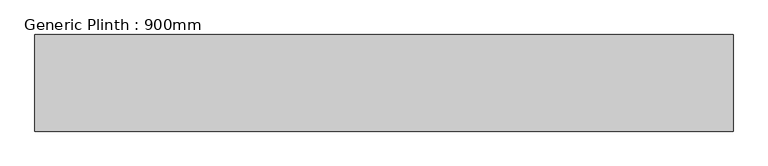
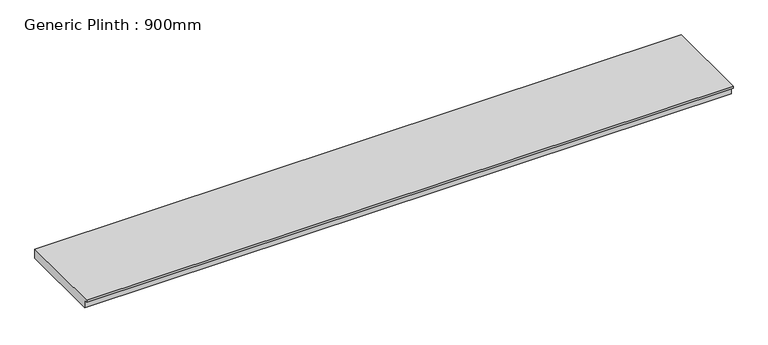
"""IFC4 building model written with IfcOpenShell, lengths in millimetres: furniture geometry, Generic Plinth : 900mm."""

import ifcopenshell
import ifcopenshell.guid

model = None  # the IFC model being written
_history = None  # IfcOwnerHistory: only IFC2X3 demands one
_inside = {}  # id of a spatial element -> (the spatial element, [elements in it])
_under = {}  # id of a project, library or spatial element -> (it, [spatial elements below it])
_declared = {}  # id of a project -> (the project, [libraries it declares])
_typed = {}  # id of a type object -> (the type object, [elements of that type])
_made_of = {}  # id of a material, layer set ... -> (it, [elements and type objects made of it])


def new_model(schema):
    """Start an empty IFC model of exactly this schema.

    Asked for "IFC4X3", IfcOpenShell would pick the latest addendum, in which some entities
    have other attributes; the version numbers below select the first issue.
    IFC2X3 requires an IfcOwnerHistory on every rooted entity: one is made here for all.
    """
    global model, _history
    if schema == "IFC4X3":
        model = ifcopenshell.file(schema_version=(4, 3, 0, 0))
    else:
        model = ifcopenshell.file(schema=schema)
    _inside.clear()
    _under.clear()
    _declared.clear()
    _typed.clear()
    _made_of.clear()
    _history = None
    if model.schema == "IFC2X3":
        org = make("IfcOrganization", Name="unknown")
        user = make(
            "IfcPersonAndOrganization",
            ThePerson=make("IfcPerson", FamilyName="unknown"),
            TheOrganization=org,
        )
        app = make(
            "IfcApplication",
            ApplicationDeveloper=org,
            Version="unknown",
            ApplicationFullName="unknown",
            ApplicationIdentifier="unknown",
        )
        _history = make(
            "IfcOwnerHistory",
            OwningUser=user,
            OwningApplication=app,
            ChangeAction="ADDED",
            CreationDate=0,
        )
    return model


def make(cls, **values):
    """One entity of the class cls with the attributes given. An attribute that is None is left unset."""
    return model.create_entity(
        cls, **{name: value for name, value in values.items() if value is not None}
    )


def rooted(cls, **values):
    """An entity with a GlobalId (a new one), such as an element, a storey or a relation."""
    return make(cls, GlobalId=ifcopenshell.guid.new(), OwnerHistory=_history, **values)


def si_unit(unit_type, name, prefix=None):
    """IfcSIUnit, for example si_unit("LENGTHUNIT", "METRE", prefix="MILLI")."""
    return make("IfcSIUnit", UnitType=unit_type, Prefix=prefix, Name=name)


def assignment(units):
    """IfcUnitAssignment: the units of a project."""
    return None if units is None else make("IfcUnitAssignment", Units=units)


def point(xyz):
    """IfcCartesianPoint."""
    return None if xyz is None else make("IfcCartesianPoint", Coordinates=xyz)


def direction(xyz):
    """IfcDirection."""
    return None if xyz is None else make("IfcDirection", DirectionRatios=xyz)


def frame(location, z_axis=None, x_axis=None):
    """IfcAxis2Placement3D, a coordinate frame: its origin and axes. An axis left out is left unset."""
    return make(
        "IfcAxis2Placement3D",
        Location=point(location),
        Axis=direction(z_axis),
        RefDirection=direction(x_axis),
    )


def origin():
    """The frame at (0, 0, 0) with its axes left unset."""
    return frame((0.0, 0.0, 0.0))


def place(relative_to, where):
    """IfcLocalPlacement: puts the frame where relative to a parent placement (None: the world)."""
    return make(
        "IfcLocalPlacement", PlacementRelTo=relative_to, RelativePlacement=where
    )


def context(
    kind, dimensions, precision=None, world=None, true_north=None, identifier=None
):
    """IfcGeometricRepresentationContext, for example the 3D "Model" context."""
    return make(
        "IfcGeometricRepresentationContext",
        ContextIdentifier=identifier,
        ContextType=kind,
        CoordinateSpaceDimension=dimensions,
        Precision=precision,
        WorldCoordinateSystem=world,
        TrueNorth=true_north,
    )


def project(units=None, contexts=None):
    """IfcProject with its units and contexts."""
    return rooted(
        "IfcProject",
        Name="project",
        RepresentationContexts=contexts,
        UnitsInContext=assignment(units),
    )


def spatial(cls, under=None, at=None, **own):
    """A site, building, storey or space (cls), placed at a placement, below another one or the project."""
    s = rooted(cls, ObjectPlacement=at, **own)
    if under is not None:
        _under.setdefault(under.id(), (under, []))[1].append(s)
    return s


def polyline(points):
    """IfcPolyline through the points."""
    return make("IfcPolyline", Points=[point(p) for p in points])


def outline(outer, holes=None, kind="AREA"):
    """IfcArbitraryClosedProfileDef: a profile drawn as a closed curve; with holes, ...WithVoids."""
    if holes is None:
        return make("IfcArbitraryClosedProfileDef", ProfileType=kind, OuterCurve=outer)
    return make(
        "IfcArbitraryProfileDefWithVoids",
        ProfileType=kind,
        OuterCurve=outer,
        InnerCurves=holes,
    )


def extrude(swept, where, along, depth):
    """IfcExtrudedAreaSolid: the profile swept, set in the frame where, extruded along a direction by depth."""
    return make(
        "IfcExtrudedAreaSolid",
        SweptArea=swept,
        Position=where,
        ExtrudedDirection=direction(along),
        Depth=depth,
    )


def shape(context_of_items, identifier, shape_type, items):
    """IfcShapeRepresentation: the items that make up one representation, for example the "Body"."""
    return make(
        "IfcShapeRepresentation",
        ContextOfItems=context_of_items,
        RepresentationIdentifier=identifier,
        RepresentationType=shape_type,
        Items=items,
    )


def source(mapping_origin, context_of_items, identifier, shape_type, items):
    """IfcRepresentationMap: a shape defined once, which mapped items show again and again."""
    return make(
        "IfcRepresentationMap",
        MappingOrigin=mapping_origin,
        MappedRepresentation=shape(context_of_items, identifier, shape_type, items),
    )


def transform(
    local_origin,
    x_axis=None,
    y_axis=None,
    z_axis=None,
    scale=None,
    scale2=None,
    scale3=None,
    uniform=True,
):
    """IfcCartesianTransformationOperator3D, or its non-uniform kind. x_axis, y_axis, z_axis: its Axis1, 2, 3."""
    if uniform:
        return make(
            "IfcCartesianTransformationOperator3D",
            Axis1=direction(x_axis),
            Axis2=direction(y_axis),
            LocalOrigin=point(local_origin),
            Scale=scale,
            Axis3=direction(z_axis),
        )
    return make(
        "IfcCartesianTransformationOperator3DnonUniform",
        Axis1=direction(x_axis),
        Axis2=direction(y_axis),
        LocalOrigin=point(local_origin),
        Scale=scale,
        Axis3=direction(z_axis),
        Scale2=scale2,
        Scale3=scale3,
    )


def mapped(mapping_source, mapping_target):
    """IfcMappedItem: shows the shape of a source again, moved by a transform."""
    return make(
        "IfcMappedItem", MappingSource=mapping_source, MappingTarget=mapping_target
    )


def made_of(thing, what):
    """Note that an element or type object is made of a material, layer set ...; save() writes the relation."""
    if what is not None:
        _made_of.setdefault(what.id(), (what, []))[1].append(thing)
    return thing


def element(
    cls,
    number,
    at=None,
    inside=None,
    cuts=None,
    type_object=None,
    material=None,
    context=None,
    identifier="Body",
    shape_type=None,
    held_by="IfcProductDefinitionShape",
    body=None,
    shapes=None,
    **own,
):
    """One element of the class cls, such as IfcWall. Its Tag is "e" and its number.

    at: its placement. inside: the storey or other place that contains it. cuts: it is an
    opening in that element (IfcRelVoidsElement). A single representation is given by context,
    identifier, shape_type and body (its items); several are given by shapes. held_by: the class
    of the entity that holds the representations. save() writes the other relations.
    """
    e = rooted(cls, Tag="e%d" % number, ObjectPlacement=at, **own)
    if body is not None:
        shapes = [shape(context, identifier, shape_type, body)]
    if shapes is not None:
        e.Representation = make(held_by, Representations=shapes)
    if inside is not None:
        _inside.setdefault(inside.id(), (inside, []))[1].append(e)
    if cuts is not None:
        rooted(
            "IfcRelVoidsElement", RelatingBuildingElement=cuts, RelatedOpeningElement=e
        )
    if type_object is not None:
        _typed.setdefault(type_object.id(), (type_object, []))[1].append(e)
    return made_of(e, material)


def aggregate(whole, parts):
    """IfcRelAggregates: a whole, such as a stair, and the parts it consists of."""
    return rooted("IfcRelAggregates", RelatingObject=whole, RelatedObjects=parts)


def save(model, path):
    """Write the relations noted so far, then the file.

    IfcRelAggregates (storeys below a building ...), IfcRelContainedInSpatialStructure (elements
    in a storey), IfcRelDefinesByType, IfcRelAssociatesMaterial and IfcRelDeclares: one each for
    every whole, place, type object, material and project.
    """
    for whole, parts in _under.values():
        aggregate(whole, parts)
    for where, things in _inside.values():
        rooted(
            "IfcRelContainedInSpatialStructure",
            RelatedElements=things,
            RelatingStructure=where,
        )
    for kind, things in _typed.values():
        rooted("IfcRelDefinesByType", RelatedObjects=things, RelatingType=kind)
    for what, things in _made_of.values():
        rooted("IfcRelAssociatesMaterial", RelatedObjects=things, RelatingMaterial=what)
    for by, libraries in _declared.values():
        rooted("IfcRelDeclares", RelatingContext=by, RelatedDefinitions=libraries)
    model.write(path)


def generic_plinth_900mm_e3c7578c(model_context):
    return source(origin(), model_context, "Body", "SweptSolid", [
        extrude(outline(polyline([(-900.0, 81.0), (-900.0, 100.0), (0.0, 100.0), (0.0, 0.0), (-865.0, 0.0), (-865.0, 81.0), (-900.0, 81.0)])), frame((-3231.2622951, 0.0, 0.0), z_axis=(1.0, 0.0, 0.0), x_axis=(0.0, 1.0, 0.0)), (0.0, 0.0, 1.0), 6500.0),
    ])


if __name__ == "__main__":
    model = new_model("IFC4")
    model_context = context("Model", 3, world=origin())
    ifc_project = project(units=[si_unit("LENGTHUNIT", "METRE", prefix="MILLI")], contexts=[model_context])
    site = spatial("IfcSite", under=ifc_project)
    building = spatial("IfcBuilding", under=site)
    placement = place(None, origin())
    generic_plinth_900mm_shape = generic_plinth_900mm_e3c7578c(model_context)
    element("IfcFurniture", 1, ObjectType="Generic Plinth : 900mm", at=placement, inside=building, context=model_context, shape_type="MappedRepresentation", body=[
        mapped(generic_plinth_900mm_shape, transform((0.0, 0.0, 0.0), x_axis=(1.0, 0.0, 0.0), y_axis=(0.0, 1.0, 0.0), z_axis=(0.0, 0.0, 1.0))),
    ])
    save(model, "model.ifc")
